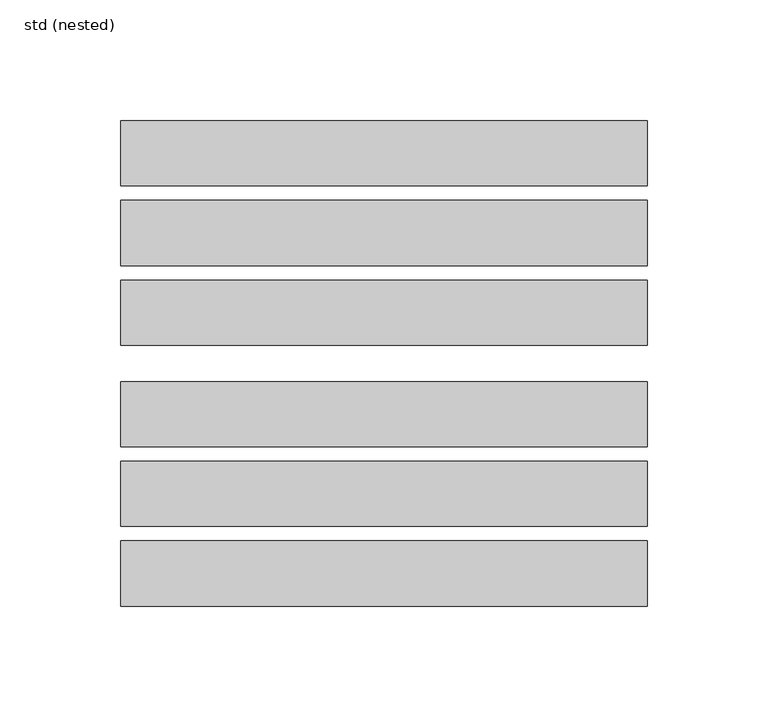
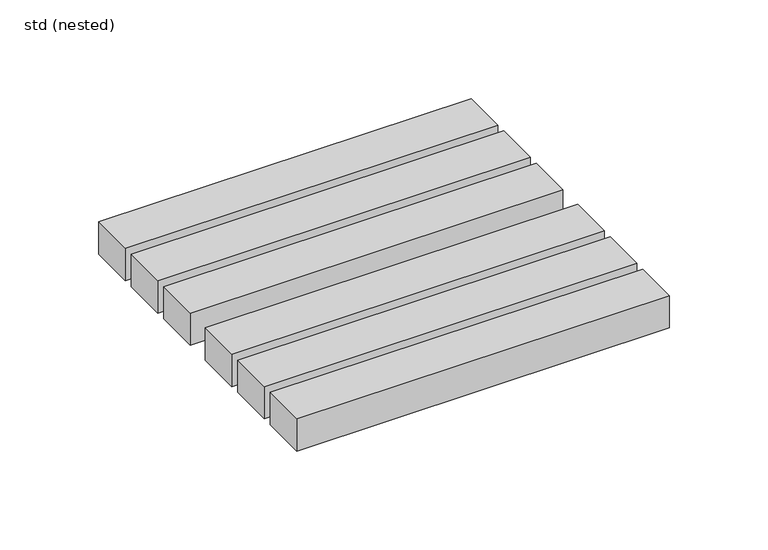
"""IFC4 building model written with IfcOpenShell, lengths in millimetres: sanitary terminal geometry, ZZZ_do not use_PF_ST_UN_square grating for hygienic gully_ACO : std (nested)."""

import ifcopenshell
import ifcopenshell.guid

model = None  # the IFC model being written
_history = None  # IfcOwnerHistory: only IFC2X3 demands one
_inside = {}  # id of a spatial element -> (the spatial element, [elements in it])
_under = {}  # id of a project, library or spatial element -> (it, [spatial elements below it])
_declared = {}  # id of a project -> (the project, [libraries it declares])
_typed = {}  # id of a type object -> (the type object, [elements of that type])
_made_of = {}  # id of a material, layer set ... -> (it, [elements and type objects made of it])


def new_model(schema):
    """Start an empty IFC model of exactly this schema.

    Asked for "IFC4X3", IfcOpenShell would pick the latest addendum, in which some entities
    have other attributes; the version numbers below select the first issue.
    IFC2X3 requires an IfcOwnerHistory on every rooted entity: one is made here for all.
    """
    global model, _history
    if schema == "IFC4X3":
        model = ifcopenshell.file(schema_version=(4, 3, 0, 0))
    else:
        model = ifcopenshell.file(schema=schema)
    _inside.clear()
    _under.clear()
    _declared.clear()
    _typed.clear()
    _made_of.clear()
    _history = None
    if model.schema == "IFC2X3":
        org = make("IfcOrganization", Name="unknown")
        user = make(
            "IfcPersonAndOrganization",
            ThePerson=make("IfcPerson", FamilyName="unknown"),
            TheOrganization=org,
        )
        app = make(
            "IfcApplication",
            ApplicationDeveloper=org,
            Version="unknown",
            ApplicationFullName="unknown",
            ApplicationIdentifier="unknown",
        )
        _history = make(
            "IfcOwnerHistory",
            OwningUser=user,
            OwningApplication=app,
            ChangeAction="ADDED",
            CreationDate=0,
        )
    return model


def make(cls, **values):
    """One entity of the class cls with the attributes given. An attribute that is None is left unset."""
    return model.create_entity(
        cls, **{name: value for name, value in values.items() if value is not None}
    )


def rooted(cls, **values):
    """An entity with a GlobalId (a new one), such as an element, a storey or a relation."""
    return make(cls, GlobalId=ifcopenshell.guid.new(), OwnerHistory=_history, **values)


def si_unit(unit_type, name, prefix=None):
    """IfcSIUnit, for example si_unit("LENGTHUNIT", "METRE", prefix="MILLI")."""
    return make("IfcSIUnit", UnitType=unit_type, Prefix=prefix, Name=name)


def assignment(units):
    """IfcUnitAssignment: the units of a project."""
    return None if units is None else make("IfcUnitAssignment", Units=units)


def point(xyz):
    """IfcCartesianPoint."""
    return None if xyz is None else make("IfcCartesianPoint", Coordinates=xyz)


def direction(xyz):
    """IfcDirection."""
    return None if xyz is None else make("IfcDirection", DirectionRatios=xyz)


def frame(location, z_axis=None, x_axis=None):
    """IfcAxis2Placement3D, a coordinate frame: its origin and axes. An axis left out is left unset."""
    return make(
        "IfcAxis2Placement3D",
        Location=point(location),
        Axis=direction(z_axis),
        RefDirection=direction(x_axis),
    )


def origin():
    """The frame at (0, 0, 0) with its axes left unset."""
    return frame((0.0, 0.0, 0.0))


def place(relative_to, where):
    """IfcLocalPlacement: puts the frame where relative to a parent placement (None: the world)."""
    return make(
        "IfcLocalPlacement", PlacementRelTo=relative_to, RelativePlacement=where
    )


def context(
    kind, dimensions, precision=None, world=None, true_north=None, identifier=None
):
    """IfcGeometricRepresentationContext, for example the 3D "Model" context."""
    return make(
        "IfcGeometricRepresentationContext",
        ContextIdentifier=identifier,
        ContextType=kind,
        CoordinateSpaceDimension=dimensions,
        Precision=precision,
        WorldCoordinateSystem=world,
        TrueNorth=true_north,
    )


def project(units=None, contexts=None):
    """IfcProject with its units and contexts."""
    return rooted(
        "IfcProject",
        Name="project",
        RepresentationContexts=contexts,
        UnitsInContext=assignment(units),
    )


def spatial(cls, under=None, at=None, **own):
    """A site, building, storey or space (cls), placed at a placement, below another one or the project."""
    s = rooted(cls, ObjectPlacement=at, **own)
    if under is not None:
        _under.setdefault(under.id(), (under, []))[1].append(s)
    return s


def polyline(points):
    """IfcPolyline through the points."""
    return make("IfcPolyline", Points=[point(p) for p in points])


def outline(outer, holes=None, kind="AREA"):
    """IfcArbitraryClosedProfileDef: a profile drawn as a closed curve; with holes, ...WithVoids."""
    if holes is None:
        return make("IfcArbitraryClosedProfileDef", ProfileType=kind, OuterCurve=outer)
    return make(
        "IfcArbitraryProfileDefWithVoids",
        ProfileType=kind,
        OuterCurve=outer,
        InnerCurves=holes,
    )


def extrude(swept, where, along, depth):
    """IfcExtrudedAreaSolid: the profile swept, set in the frame where, extruded along a direction by depth."""
    return make(
        "IfcExtrudedAreaSolid",
        SweptArea=swept,
        Position=where,
        ExtrudedDirection=direction(along),
        Depth=depth,
    )


def shape(context_of_items, identifier, shape_type, items):
    """IfcShapeRepresentation: the items that make up one representation, for example the "Body"."""
    return make(
        "IfcShapeRepresentation",
        ContextOfItems=context_of_items,
        RepresentationIdentifier=identifier,
        RepresentationType=shape_type,
        Items=items,
    )


def source(mapping_origin, context_of_items, identifier, shape_type, items):
    """IfcRepresentationMap: a shape defined once, which mapped items show again and again."""
    return make(
        "IfcRepresentationMap",
        MappingOrigin=mapping_origin,
        MappedRepresentation=shape(context_of_items, identifier, shape_type, items),
    )


def transform(
    local_origin,
    x_axis=None,
    y_axis=None,
    z_axis=None,
    scale=None,
    scale2=None,
    scale3=None,
    uniform=True,
):
    """IfcCartesianTransformationOperator3D, or its non-uniform kind. x_axis, y_axis, z_axis: its Axis1, 2, 3."""
    if uniform:
        return make(
            "IfcCartesianTransformationOperator3D",
            Axis1=direction(x_axis),
            Axis2=direction(y_axis),
            LocalOrigin=point(local_origin),
            Scale=scale,
            Axis3=direction(z_axis),
        )
    return make(
        "IfcCartesianTransformationOperator3DnonUniform",
        Axis1=direction(x_axis),
        Axis2=direction(y_axis),
        LocalOrigin=point(local_origin),
        Scale=scale,
        Axis3=direction(z_axis),
        Scale2=scale2,
        Scale3=scale3,
    )


def mapped(mapping_source, mapping_target):
    """IfcMappedItem: shows the shape of a source again, moved by a transform."""
    return make(
        "IfcMappedItem", MappingSource=mapping_source, MappingTarget=mapping_target
    )


def made_of(thing, what):
    """Note that an element or type object is made of a material, layer set ...; save() writes the relation."""
    if what is not None:
        _made_of.setdefault(what.id(), (what, []))[1].append(thing)
    return thing


def element(
    cls,
    number,
    at=None,
    inside=None,
    cuts=None,
    type_object=None,
    material=None,
    context=None,
    identifier="Body",
    shape_type=None,
    held_by="IfcProductDefinitionShape",
    body=None,
    shapes=None,
    **own,
):
    """One element of the class cls, such as IfcWall. Its Tag is "e" and its number.

    at: its placement. inside: the storey or other place that contains it. cuts: it is an
    opening in that element (IfcRelVoidsElement). A single representation is given by context,
    identifier, shape_type and body (its items); several are given by shapes. held_by: the class
    of the entity that holds the representations. save() writes the other relations.
    """
    e = rooted(cls, Tag="e%d" % number, ObjectPlacement=at, **own)
    if body is not None:
        shapes = [shape(context, identifier, shape_type, body)]
    if shapes is not None:
        e.Representation = make(held_by, Representations=shapes)
    if inside is not None:
        _inside.setdefault(inside.id(), (inside, []))[1].append(e)
    if cuts is not None:
        rooted(
            "IfcRelVoidsElement", RelatingBuildingElement=cuts, RelatedOpeningElement=e
        )
    if type_object is not None:
        _typed.setdefault(type_object.id(), (type_object, []))[1].append(e)
    return made_of(e, material)


def aggregate(whole, parts):
    """IfcRelAggregates: a whole, such as a stair, and the parts it consists of."""
    return rooted("IfcRelAggregates", RelatingObject=whole, RelatedObjects=parts)


def save(model, path):
    """Write the relations noted so far, then the file.

    IfcRelAggregates (storeys below a building ...), IfcRelContainedInSpatialStructure (elements
    in a storey), IfcRelDefinesByType, IfcRelAssociatesMaterial and IfcRelDeclares: one each for
    every whole, place, type object, material and project.
    """
    for whole, parts in _under.values():
        aggregate(whole, parts)
    for where, things in _inside.values():
        rooted(
            "IfcRelContainedInSpatialStructure",
            RelatedElements=things,
            RelatingStructure=where,
        )
    for kind, things in _typed.values():
        rooted("IfcRelDefinesByType", RelatedObjects=things, RelatingType=kind)
    for what, things in _made_of.values():
        rooted("IfcRelAssociatesMaterial", RelatedObjects=things, RelatingMaterial=what)
    for by, libraries in _declared.values():
        rooted("IfcRelDeclares", RelatingContext=by, RelatedDefinitions=libraries)
    model.write(path)


def std_nested_c32a463d(model_context):
    return source(origin(), model_context, "Body", "SweptSolid", [
        extrude(outline(polyline([(-109.0, -100.5), (-109.0, -73.5), (109.0, -73.5), (109.0, -100.5), (-109.0, -100.5)])), frame((0.0, 0.0, -20.0), z_axis=(0.0, 0.0, 1.0), x_axis=(1.0, 0.0, 0.0)), (0.0, 0.0, 1.0), 20.0),
        extrude(outline(polyline([(-109.0, -67.5), (-109.0, -40.5), (109.0, -40.5), (109.0, -67.5), (-109.0, -67.5)])), frame((0.0, 0.0, -20.0), z_axis=(0.0, 0.0, 1.0), x_axis=(1.0, 0.0, 0.0)), (0.0, 0.0, 1.0), 20.0),
        extrude(outline(polyline([(-109.0, 73.5), (-109.0, 100.5), (109.0, 100.5), (109.0, 73.5), (-109.0, 73.5)])), frame((0.0, 0.0, -20.0), z_axis=(0.0, 0.0, 1.0), x_axis=(1.0, 0.0, 0.0)), (0.0, 0.0, 1.0), 20.0),
        extrude(outline(polyline([(-109.0, 40.5), (-109.0, 67.5), (109.0, 67.5), (109.0, 40.5), (-109.0, 40.5)])), frame((0.0, 0.0, -20.0), z_axis=(0.0, 0.0, 1.0), x_axis=(1.0, 0.0, 0.0)), (0.0, 0.0, 1.0), 20.0),
        extrude(outline(polyline([(-109.0, 7.5), (-109.0, 34.5), (109.0, 34.5), (109.0, 7.5), (-109.0, 7.5)])), frame((0.0, 0.0, -20.0), z_axis=(0.0, 0.0, 1.0), x_axis=(1.0, 0.0, 0.0)), (0.0, 0.0, 1.0), 20.0),
        extrude(outline(polyline([(-109.0, -34.5), (-109.0, -7.5), (109.0, -7.5), (109.0, -34.5), (-109.0, -34.5)])), frame((0.0, 0.0, -20.0), z_axis=(0.0, 0.0, 1.0), x_axis=(1.0, 0.0, 0.0)), (0.0, 0.0, 1.0), 20.0),
    ])


if __name__ == "__main__":
    model = new_model("IFC4")
    model_context = context("Model", 3, world=origin())
    ifc_project = project(units=[si_unit("LENGTHUNIT", "METRE", prefix="MILLI")], contexts=[model_context])
    site = spatial("IfcSite", under=ifc_project)
    building = spatial("IfcBuilding", under=site)
    placement = place(None, origin())
    std_nested_shape = std_nested_c32a463d(model_context)
    element("IfcSanitaryTerminal", 1, ObjectType="ZZZ_do not use_PF_ST_UN_square grating for hygienic gully_ACO : std (nested)", at=placement, inside=building, context=model_context, shape_type="MappedRepresentation", body=[
        mapped(std_nested_shape, transform((0.0, 0.0, 0.0), x_axis=(1.0, 0.0, 0.0), y_axis=(0.0, 1.0, 0.0), z_axis=(0.0, 0.0, 1.0))),
    ])
    save(model, "model.ifc")
